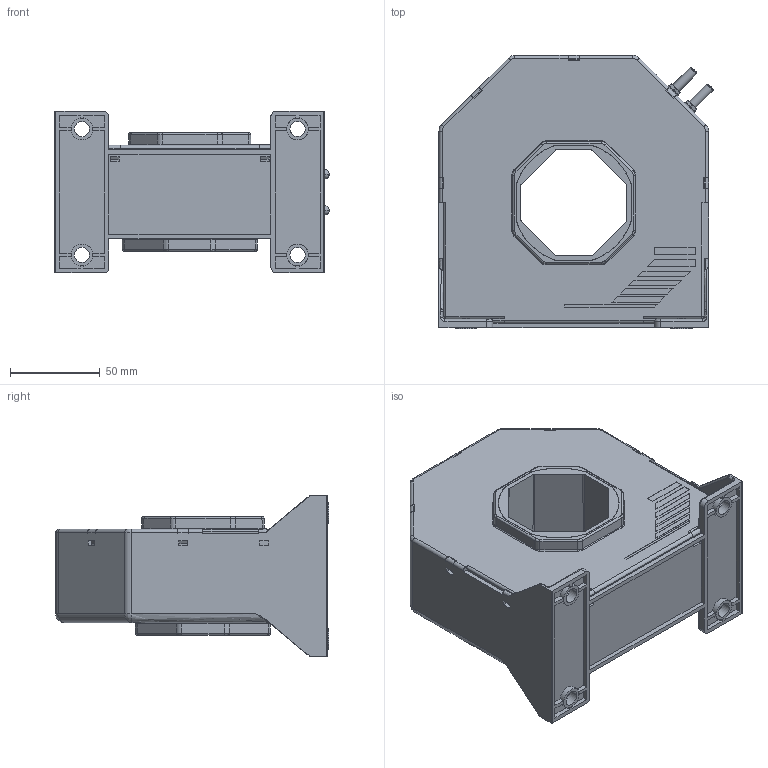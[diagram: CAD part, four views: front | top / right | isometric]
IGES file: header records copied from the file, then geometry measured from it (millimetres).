
Start section: Elysium IGES Interface
Global section: file name: \\Gva50\sd-data\Etudes\GVu\BLACK BOX\LT 2005-S\LT 2005-S_SP12_blackbox\LT 2005-S_SP12_Blaclbox.igs; native system: SolidDesigner 16.00A  16-Aug-2008; preprocessor: CoCreate IGES_3D V2.2; author: Unknown; organization: Unknown; date: 20090609.141930; units: millimetre
Bounding box: 152.51 x 152.2 x 90 mm (x, y, z)
Volume: 957786.5 mm3; surface area: 97307 mm2
Topology: 5 solids, 5 shells, 941 faces, 2370 edges, 1518 vertices
Faces by surface type: bspline 941
